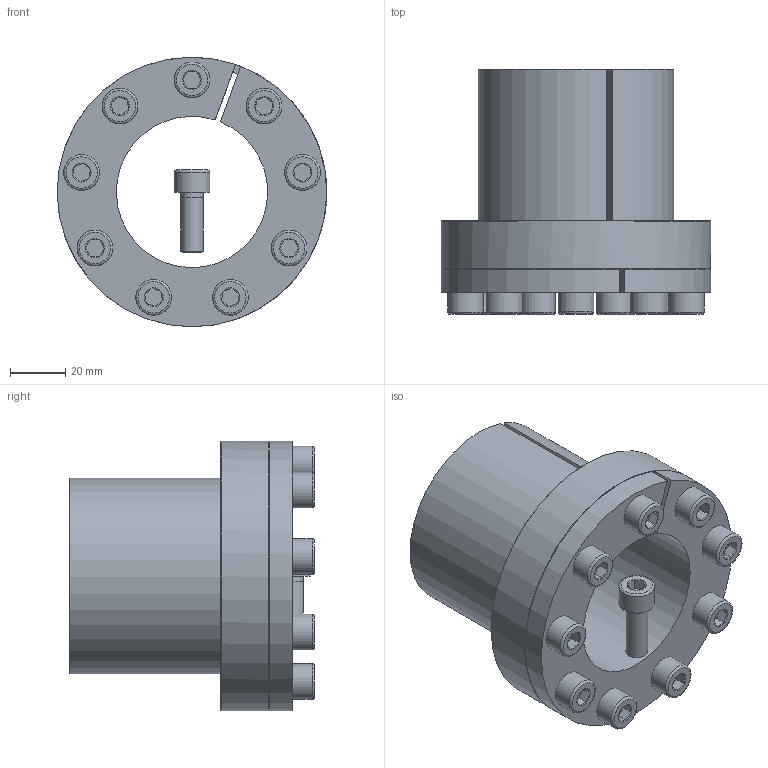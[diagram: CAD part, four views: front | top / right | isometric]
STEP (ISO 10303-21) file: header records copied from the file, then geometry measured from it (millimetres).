
FILE_DESCRIPTION( ( 'Unknown' ), '1' );
FILE_NAME( 'C:/Dokumente und Einstellungen/Sven/Desktop/homepage/cad - homepage/KBS80/KBS 80 - 55 x 71.stp', 'Unknown', ( 'Unknown' ), ( 'Unknown' ), 'XStep 1.0', 'Unknown', ' ' );
FILE_SCHEMA( ( 'automotive_design' ) );
Length unit declared in the file: millimetre
Products named in the file (11): Assem1; KBS 80 - 55 x 71; ISO EN DIN 4762 M8x22; ISO EN DIN 4762 M8x22-oa0; ISO EN DIN 4762 M8x22-oa1; ISO EN DIN 4762 M8x22-oa2; ISO EN DIN 4762 M8x22-oa3; ISO EN DIN 4762 M8x22-oa4; ISO EN DIN 4762 M8x22-oa5; ISO EN DIN 4762 M8x22-oa6; ISO EN DIN 4762 M8x22-oa7
Bounding box: 98 x 89 x 98 mm (x, y, z)
Volume: 450448.5 mm3; surface area: 124578.5 mm2
Topology: 20 solids, 20 shells, 508 faces, 948 edges, 550 vertices
Faces by surface type: plane 232, cone 140, cylinder 100, torus 36
Full cylindrical faces by diameter (mm): 7 x18, 8 x54, 13 x18, 98 x2
Entity records: 6386 total; most frequent: CARTESIAN_POINT 1336, DIRECTION 1036, ORIENTED_EDGE 756, AXIS2_PLACEMENT_3D 455, EDGE_LOOP 385, EDGE_CURVE 378, FACE_OUTER_BOUND 318, VERTEX_POINT 255
